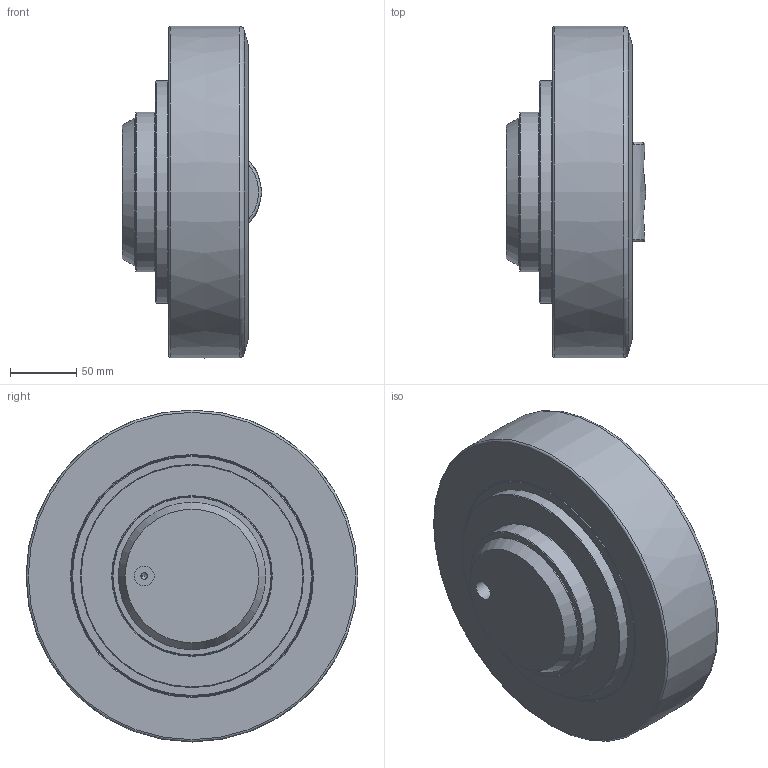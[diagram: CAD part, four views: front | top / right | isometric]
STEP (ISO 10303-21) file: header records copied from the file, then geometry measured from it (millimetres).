
FILE_DESCRIPTION(/* description */ ('-','CAx-IF Rec.Pracs.---Representation and Presentation of Product Manufacturing Information (PMI)---4.0---2014-10-13'),/* implementation_level */ '2;1');
FILE_NAME(/* name */ 'c:\temp\9c392d94-6cb3-4593-b8bd-d8ca1d880c15\e1eb67c5-831d-4cbf-84f9-6c97f59ee1eb.stp',/* time_stamp */ '2020-04-01T16:10:17+02:00',/* author */ ('-'),/* organization */ ('NTI CADcenter A/S'),/* preprocessor_version */ 'ST-DEVELOPER v18',/* originating_system */ 'Autodesk Inventor 2020',/* authorisation */ '-');
FILE_SCHEMA (('AP242_MANAGED_MODEL_BASED_3D_ENGINEERING_MIM_LF { 1 0 10303 442 1 1 4 }'));
Length unit declared in the file: millimetre
Products named in the file (1): MR 250.0610_Kontur
Bounding box: 105 x 249.98 x 250 mm (x, y, z)
Volume: 3323731 mm3; surface area: 331126.8 mm2
Topology: 1 solids, 1 shells, 582 faces, 1954 edges, 1071 vertices
Faces by surface type: plane 395, cylinder 152, cone 23, torus 10, bspline 2
Full cylindrical faces by diameter (mm): 2.5 x1, 4 x2, 4.917 x1, 14 x41, 15 x1, 19.5 x6, 111 x1, 120 x1, 155 x1, 168 x5, 181 x4, 182 x4
Entity records: 22798 total; most frequent: DIRECTION 4680, CARTESIAN_POINT 4013, ORIENTED_EDGE 3986, AXIS2_PLACEMENT_3D 2137, EDGE_CURVE 1993, CIRCLE 1556, VERTEX_POINT 1071, EDGE_LOOP 656
